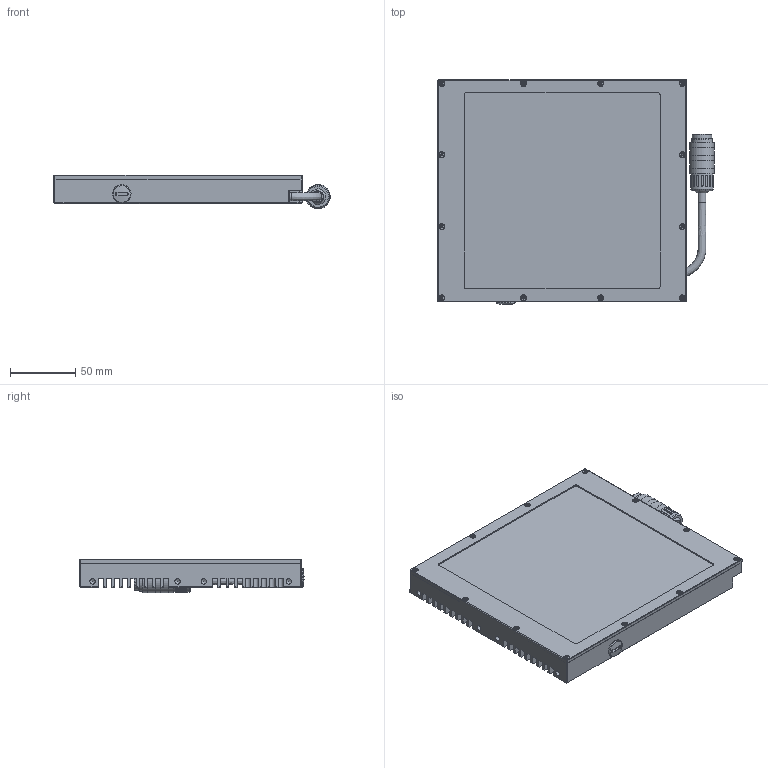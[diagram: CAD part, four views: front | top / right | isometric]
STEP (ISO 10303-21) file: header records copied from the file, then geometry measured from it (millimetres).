
FILE_DESCRIPTION(/* description */ ('CAx-IF Rec.Pracs.---Representation and Presentation of Product Manufacturing Information (PMI)---4.0---2014-10-13','CAx-IF Rec.Pracs.---3D Tessellated Geometry---0.4---2014-09-14','2;1'),/* implementation_level */ '2;1');
FILE_NAME(/* name */ 'LG1515-LG1515FL-V02',/* time_stamp */ '2019-12-03T10:26:21+01:00',/* author */ (''),/* organization */ ('iiM AG'),/* preprocessor_version */ 'ST-DEVELOPER v16.7',/* originating_system */ 'DEX',/* authorisation */ $);
FILE_SCHEMA (('AP242_MANAGED_MODEL_BASED_3D_ENGINEERING_MIM_LF { 1 0 10303 442 1 1 4 }'));
Length unit declared in the file: millimetre
Products named in the file (1): LG1515-V02_MO
Bounding box: 211.29 x 171.95 x 25.79 mm (x, y, z)
Volume: 337997.5 mm3; surface area: 209167.3 mm2
Topology: 2 solids, 14 shells, 1047 faces, 2799 edges, 1793 vertices
Faces by surface type: plane 437, cylinder 388, cone 176, bspline 18, torus 15, sphere 13
Full cylindrical faces by diameter (mm): 1 x12, 1.567 x24, 2 x12, 2.1 x8, 2.11 x4, 2.459 x4, 3.8 x12, 4.134 x38, 6 x2, 6.2 x1, 8 x1, 9 x1, 11 x3, 11.89 x1, 14 x1, 15 x1, 16 x1, 17.5 x1, 18.5 x3, 18.6 x2
Entity records: 43243 total; most frequent: CARTESIAN_POINT 12358, ORIENTED_EDGE 4716, DIRECTION 4631, EDGE_CURVE 2358, AXIS2_PLACEMENT_3D 1763, VERTEX_POINT 1659, FACE_BOUND 1399, EDGE_LOOP 1356
